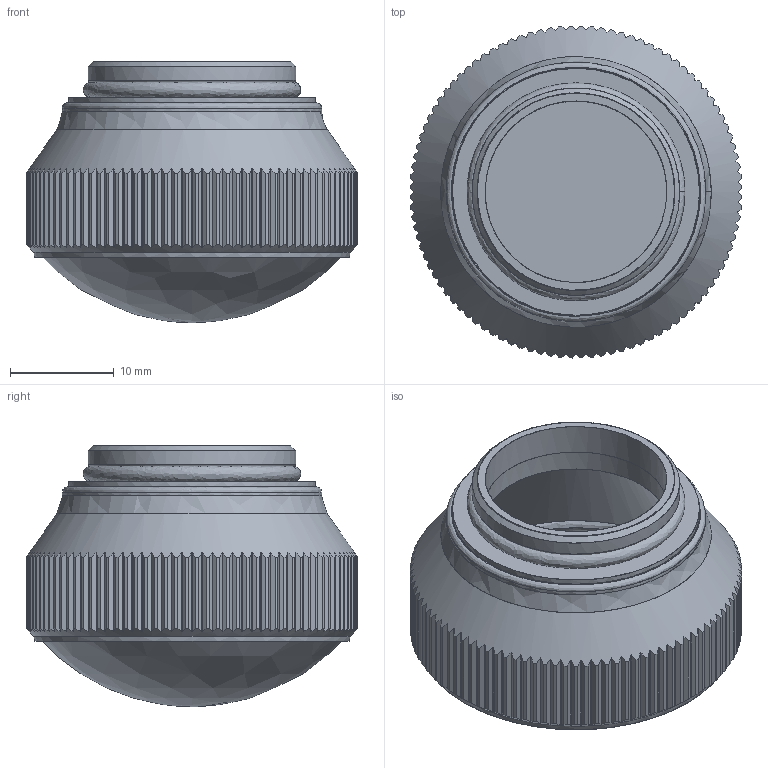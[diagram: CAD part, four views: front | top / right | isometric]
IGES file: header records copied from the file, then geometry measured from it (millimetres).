
Global section: file name: C:\Users\mmoretti\Downloads\Nuova cartella\DSD-1055_95ACC1220-Lens 40 _GOT-5046 Lens X-0179.igs; native system: NX V12.0; preprocessor: SIEMENS PLM Software NX 12.0; date: 20210304.104605; units: millimetre
Bounding box: 31.99 x 31.99 x 25.18 mm (x, y, z)
Surface area: 6376.6 mm2 (no closed solid volume)
Topology: 0 solids, 0 shells, 430 faces, 2664 edges, 2645 vertices
Faces by surface type: bspline 430
